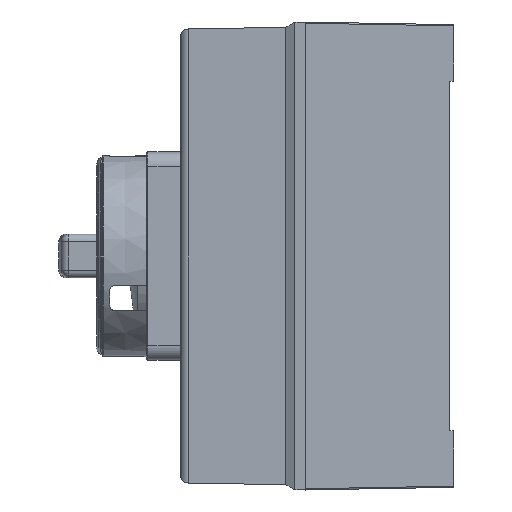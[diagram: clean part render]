
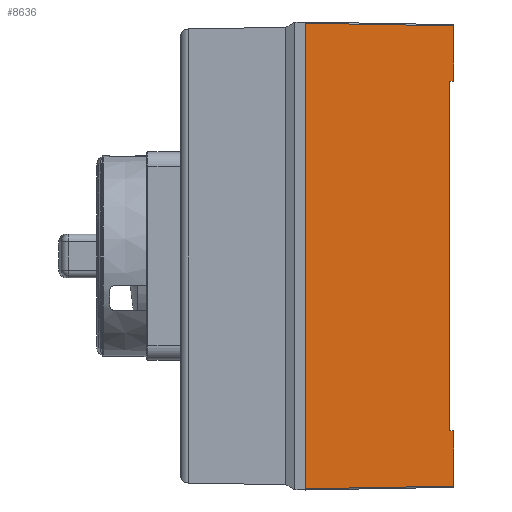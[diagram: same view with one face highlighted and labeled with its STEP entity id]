
A CAD part, left-side view. The second image highlights one B-rep face of the part: STEP entity #8636.
In plain terms, the highlighted planar face has unit normal (-1, -0.018, 0).
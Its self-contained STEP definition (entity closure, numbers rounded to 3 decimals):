
#5698=CARTESIAN_POINT('',(0.758,0.002,
-119.113));
#5708=DIRECTION('',(0.,0.,-1.));
#5709=VECTOR('',#5708,14.169);
#5710=CARTESIAN_POINT('',(0.758,0.002,
-104.944));
#5711=LINE('',#5710,#5709);
#5756=DIRECTION('',(0.,0.,-1.));
#5757=VECTOR('',#5756,14.169);
#5758=CARTESIAN_POINT('',(0.758,0.002,
-1.074));
#5759=LINE('',#5758,#5757);
#5768=CARTESIAN_POINT('',(0.758,0.002,
-1.074));
#5854=DIRECTION('',(0.,0.,1.));
#5855=VECTOR('',#5854,119.365);
#5856=CARTESIAN_POINT('',(0.094,38.002,
-119.776));
#5857=LINE('',#5856,#5855);
#5858=DIRECTION('',(-0.017,1.,0.017));
#5859=VECTOR('',#5858,38.012);
#5860=CARTESIAN_POINT('',(0.758,0.002,
-1.074));
#5861=LINE('',#5860,#5859);
#5862=DIRECTION('',(-0.017,1.,0.));
#5863=VECTOR('',#5862,1.);
#5864=CARTESIAN_POINT('',(0.758,0.002,
-15.244));
#5865=LINE('',#5864,#5863);
#5866=DIRECTION('',(0.,0.,1.));
#5867=VECTOR('',#5866,89.7);
#5868=CARTESIAN_POINT('',(0.74,1.002,
-104.944));
#5869=LINE('',#5868,#5867);
#5870=DIRECTION('',(-0.017,1.,0.));
#5871=VECTOR('',#5870,1.);
#5872=CARTESIAN_POINT('',(0.758,0.002,
-104.944));
#5873=LINE('',#5872,#5871);
#5874=DIRECTION('',(-0.017,1.,-0.017));
#5875=VECTOR('',#5874,38.012);
#5876=CARTESIAN_POINT('',(0.758,0.002,
-119.113));
#5877=LINE('',#5876,#5875);
#7245=VERTEX_POINT('',#5698);
#7250=VERTEX_POINT('',#5768);
#7261=CARTESIAN_POINT('',(0.74,1.002,
-104.944));
#7262=CARTESIAN_POINT('',(0.74,1.002,
-15.244));
#7263=VERTEX_POINT('',#7261);
#7264=VERTEX_POINT('',#7262);
#7265=CARTESIAN_POINT('',(0.758,0.002,
-104.944));
#7266=VERTEX_POINT('',#7265);
#7267=CARTESIAN_POINT('',(0.758,0.002,
-15.244));
#7268=VERTEX_POINT('',#7267);
#7657=CARTESIAN_POINT('',(0.094,38.002,
-119.776));
#7658=CARTESIAN_POINT('',(0.094,38.002,
-0.411));
#7659=VERTEX_POINT('',#7657);
#7660=VERTEX_POINT('',#7658);
#8616=CARTESIAN_POINT('',(0.077,39.002,2.106));
#8617=DIRECTION('',(-1.,-0.017,0.));
#8618=DIRECTION('',(0.,0.,1.));
#8619=AXIS2_PLACEMENT_3D('',#8616,#8617,#8618);
#8620=PLANE('',#8619);
#8622=ORIENTED_EDGE('',*,*,#8621,.T.);
#8624=ORIENTED_EDGE('',*,*,#8623,.F.);
#8625=ORIENTED_EDGE('',*,*,#8546,.T.);
#8627=ORIENTED_EDGE('',*,*,#8626,.T.);
#8629=ORIENTED_EDGE('',*,*,#8628,.F.);
#8630=ORIENTED_EDGE('',*,*,#8609,.F.);
#8631=ORIENTED_EDGE('',*,*,#8501,.T.);
#8633=ORIENTED_EDGE('',*,*,#8632,.T.);
#8634=EDGE_LOOP('',(#8622,#8624,#8625,#8627,#8629,#8630,#8631,#8633));
#8635=FACE_OUTER_BOUND('',#8634,.F.);
#8636=ADVANCED_FACE('',(#8635),#8620,.T.);
#8501=EDGE_CURVE('',#7266,#7245,#5711,.T.);
#8546=EDGE_CURVE('',#7250,#7268,#5759,.T.);
#8609=EDGE_CURVE('',#7266,#7263,#5873,.T.);
#8621=EDGE_CURVE('',#7659,#7660,#5857,.T.);
#8623=EDGE_CURVE('',#7250,#7660,#5861,.T.);
#8626=EDGE_CURVE('',#7268,#7264,#5865,.T.);
#8628=EDGE_CURVE('',#7263,#7264,#5869,.T.);
#8632=EDGE_CURVE('',#7245,#7659,#5877,.T.);
